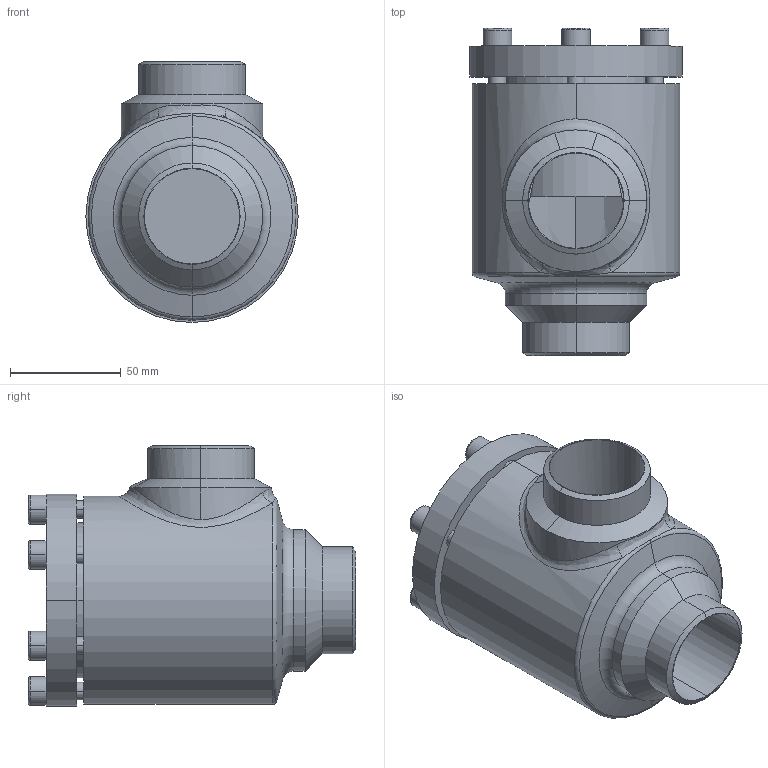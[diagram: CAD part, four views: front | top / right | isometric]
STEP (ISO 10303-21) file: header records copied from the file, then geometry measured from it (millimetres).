
FILE_DESCRIPTION (( 'STEP AP214' ), '1' );
FILE_NAME ('RV28400D14-DN040_R1_PS40.STEP', '2006-04-28T05:26:23', ( 'Herr Grams' ), ( 'AWP GmbH' ), 'SwSTEP 2.0', 'SolidWorks 2002296', '' );
FILE_SCHEMA (( 'AUTOMOTIVE_DESIGN' ));
Length unit declared in the file: millimetre
Products named in the file (5): RV28400D14-DN040_R1_PS40; Gehäuse16400-DN040_Standard; RV28300E15_Deck+Schr-DN40-50_Standard; Zylinderschraube-DIN912_M 8x 25; Deckel28300E15-DN40-50_Standard
Assembly tree (9 placements, depth 3):
  RV28400D14-DN040_R1_PS40
    Gehäuse16400-DN040_Standard
    RV28300E15_Deck+Schr-DN40-50_Standard
      Zylinderschraube-DIN912_M 8x 25  x6
      Deckel28300E15-DN40-50_Standard
Bounding box: 96 x 148 x 118 mm (x, y, z)
Volume: 588686.7 mm3; surface area: 111217.6 mm2
Topology: 8 solids, 8 shells, 178 faces, 389 edges, 243 vertices
Faces by surface type: plane 73, cylinder 61, cone 25, torus 16, bspline 3
Entity records: 12393 total; most frequent: CARTESIAN_POINT 9968, DIRECTION 483, ORIENTED_EDGE 398, AXIS2_PLACEMENT_3D 205, EDGE_CURVE 199, VERTEX_POINT 123, EDGE_LOOP 110, CIRCLE 107
